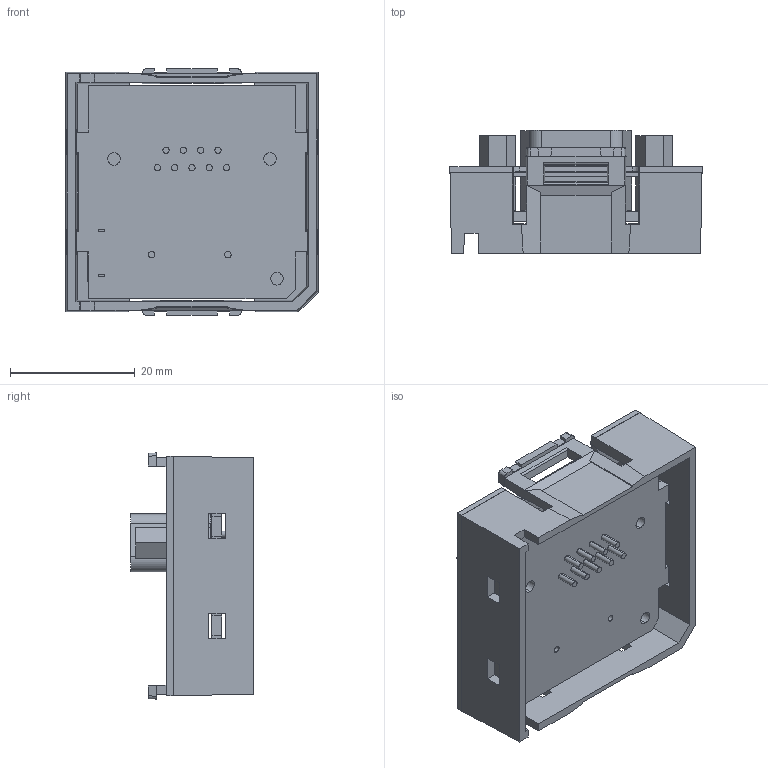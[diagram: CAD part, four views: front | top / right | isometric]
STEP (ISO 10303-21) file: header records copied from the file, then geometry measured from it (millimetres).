
FILE_DESCRIPTION (( 'STEP AP214' ), '1' );
FILE_NAME ('K606 BD-2COM.STEP', '2022-07-04T06:22:29', ( '' ), ( '' ), 'SwSTEP 2.0', 'SolidWorks 2020', '' );
FILE_SCHEMA (( 'AUTOMOTIVE_DESIGN' ));
Length unit declared in the file: millimetre
Products named in the file (1): K606 BD-2COM
Bounding box: 40.44 x 19.66 x 39.43 mm (x, y, z)
Volume: 8330.6 mm3; surface area: 11379.2 mm2
Topology: 4 solids, 4 shells, 333 faces, 911 edges, 609 vertices
Faces by surface type: plane 234, cylinder 91, cone 8
Entity records: 14574 total; most frequent: CARTESIAN_POINT 2345, ORIENTED_EDGE 1822, DIRECTION 1629, EDGE_CURVE 911, LINE 621, VECTOR 621, VERTEX_POINT 609, AXIS2_PLACEMENT_3D 504
